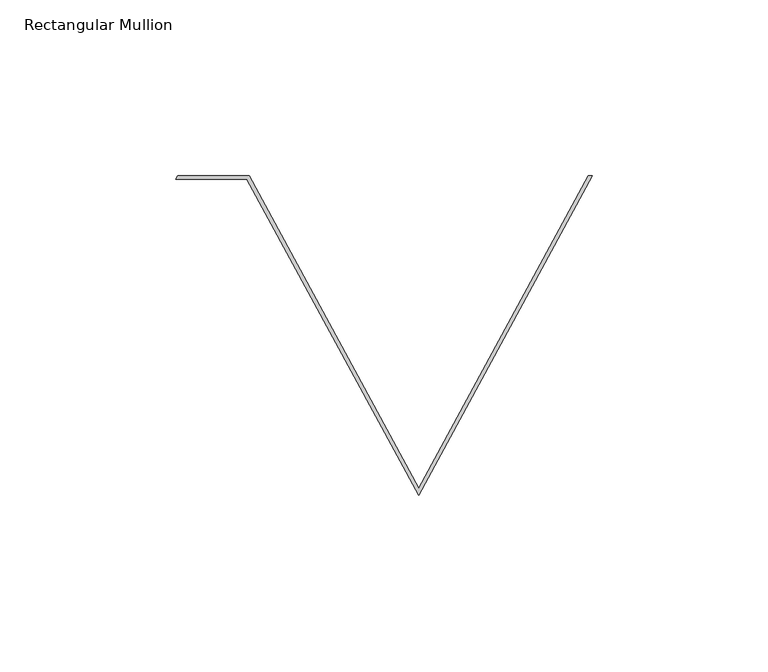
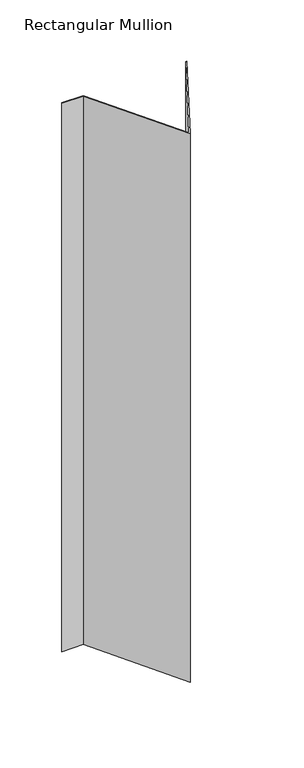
"""IFC4 building model written with IfcOpenShell, lengths in millimetres: member geometry, Rectangular Mullion : CD_NINELINE_Pleat Start Intermediate."""

from ifc_helpers import new_model, si_unit, frame, origin, place, context, project, spatial, polyline, outline, extrude, source, transform, mapped, element, save


def rectangular_mullion_6d4f5b42(model_context):
    return source(origin(), model_context, "Body", "SweptSolid", [
        extrude(outline(polyline([(0.4089599, 0.0), (20.7310548, 0.0), (68.9999476, -88.9018164), (117.2688403, 0.0), (118.4089687, 0.0), (69.0, -91.0), (20.133987, -1.0), (-0.1339862, -1.0), (0.4089599, 0.0)])), frame((0.0, 0.0, -547.0), z_axis=(0.0, 0.0, 1.0), x_axis=(1.0, 0.0, 0.0)), (0.0, 0.0, 1.0), 547.0),
    ])


if __name__ == "__main__":
    model = new_model("IFC4")
    model_context = context("Model", 3, world=origin())
    ifc_project = project(units=[si_unit("LENGTHUNIT", "METRE", prefix="MILLI")], contexts=[model_context])
    site = spatial("IfcSite", under=ifc_project)
    building = spatial("IfcBuilding", under=site)
    placement = place(None, origin())
    rectangular_mullion_shape = rectangular_mullion_6d4f5b42(model_context)
    element("IfcMember", 1, ObjectType="Rectangular Mullion : CD_NINELINE_Pleat Start Intermediate", at=placement, inside=building, context=model_context, shape_type="MappedRepresentation", body=[
        mapped(rectangular_mullion_shape, transform((0.0, 0.0, 0.0), x_axis=(1.0, 0.0, 0.0), y_axis=(0.0, 1.0, 0.0), z_axis=(0.0, 0.0, 1.0))),
    ])
    save(model, "model.ifc")
